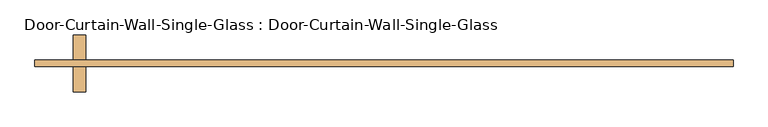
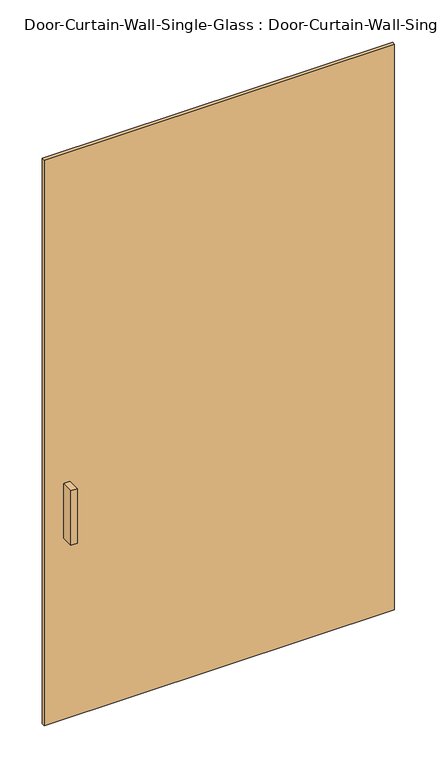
"""IFC4 building model written with IfcOpenShell, lengths in millimetres: door geometry, Door-Curtain-Wall-Single-Glass : Door-Curtain-Wall-Single-Glass."""

from ifc_helpers import new_model, si_unit, frame, origin, origin_with_axes, place, context, project, spatial, polyline, outline, extrude, source, transform, mapped, element, save


def door_curtain_wall_single_glass_door_curtain_wall_single_a49711bd(model_context):
    return source(origin(), model_context, "Body", "SweptSolid", [
        extrude(outline(polyline([(695.5484492, -50.8), (-695.5484492, -50.8), (-695.5484492, -38.1), (695.5484492, -38.1), (695.5484492, -50.8)])), origin_with_axes(), (0.0, 0.0, 1.0), 2375.0),
        extrude(outline(polyline([(-619.3484492, -101.6), (-619.3484492, -50.8), (-593.9484492, -50.8), (-593.9484492, -101.6), (-619.3484492, -101.6)])), frame((0.0, 0.0, 762.0), z_axis=(0.0, 0.0, 1.0), x_axis=(1.0, 0.0, 0.0)), (0.0, 0.0, 1.0), 228.6),
        extrude(outline(polyline([(-593.9484492, 12.7), (-593.9484492, -38.1), (-619.3484492, -38.1), (-619.3484492, 12.7), (-593.9484492, 12.7)])), frame((0.0, 0.0, 762.0), z_axis=(0.0, 0.0, 1.0), x_axis=(1.0, 0.0, 0.0)), (0.0, 0.0, 1.0), 228.6),
    ])


if __name__ == "__main__":
    model = new_model("IFC4")
    model_context = context("Model", 3, world=origin())
    ifc_project = project(units=[si_unit("LENGTHUNIT", "METRE", prefix="MILLI")], contexts=[model_context])
    site = spatial("IfcSite", under=ifc_project)
    building = spatial("IfcBuilding", under=site)
    placement = place(None, origin())
    door_curtain_wall_single_glass_door_curtain_wall_single_shape = door_curtain_wall_single_glass_door_curtain_wall_single_a49711bd(model_context)
    element("IfcDoor", 1, ObjectType="Door-Curtain-Wall-Single-Glass : Door-Curtain-Wall-Single-Glass", at=placement, inside=building, context=model_context, shape_type="MappedRepresentation", body=[
        mapped(door_curtain_wall_single_glass_door_curtain_wall_single_shape, transform((0.0, 0.0, 0.0), x_axis=(1.0, 0.0, 0.0), y_axis=(0.0, 1.0, 0.0), z_axis=(0.0, 0.0, 1.0))),
    ])
    save(model, "model.ifc")
